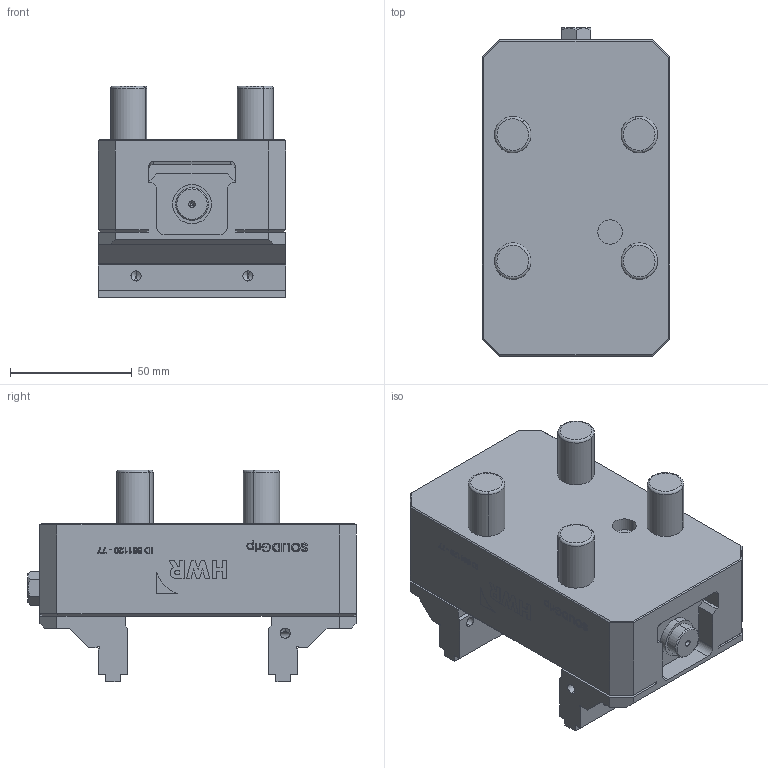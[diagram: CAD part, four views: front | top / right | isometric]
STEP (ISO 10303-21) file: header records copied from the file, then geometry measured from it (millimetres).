
FILE_DESCRIPTION (( 'STEP AP214' ), '1' );
FILE_NAME ('681120-77-Modell.STEP', '2019-11-15T10:45:23', ( '' ), ( '' ), 'SwSTEP 2.0', 'SolidWorks 2018', '' );
FILE_SCHEMA (( 'AUTOMOTIVE_DESIGN' ));
Length unit declared in the file: millimetre
Products named in the file (2): 681120-77-Modell
Bounding box: 77 x 135 x 87 mm (x, y, z)
Volume: 441925.6 mm3; surface area: 60983.3 mm2
Topology: 1 solids, 6 shells, 1098 faces, 2908 edges, 1905 vertices
Faces by surface type: plane 578, bspline 398, cylinder 70, cone 44, torus 8
Entity records: 58975 total; most frequent: CARTESIAN_POINT 22399, ORIENTED_EDGE 5764, DIRECTION 3630, EDGE_CURVE 2882, VERTEX_POINT 1905, LINE 1886, VECTOR 1886, EDGE_LOOP 1215
